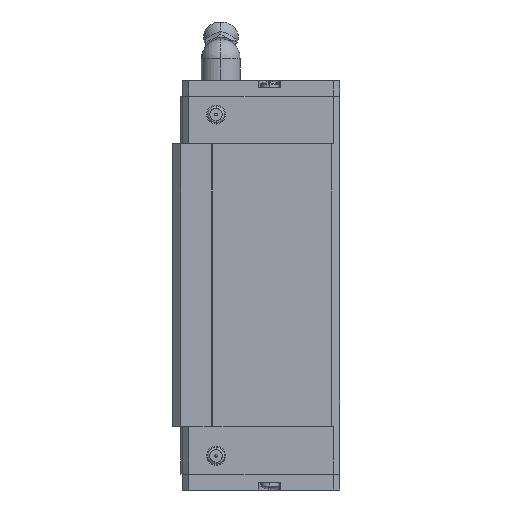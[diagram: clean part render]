
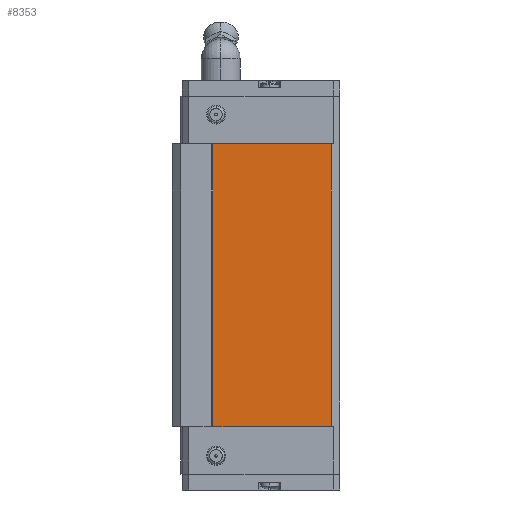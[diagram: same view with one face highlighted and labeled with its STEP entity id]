
A CAD part, left-side view. The second image highlights one B-rep face of the part: STEP entity #8353.
In plain terms, the highlighted planar face has unit normal (-1, 0, 0).
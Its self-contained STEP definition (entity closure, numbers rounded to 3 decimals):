
#803 = CARTESIAN_POINT ( 'NONE',  ( -23.629, 1.72, 29. ) ) ;
#815 = DIRECTION ( 'NONE',  ( 0., 0., -1. ) ) ;
#819 = CARTESIAN_POINT ( 'NONE',  ( -23.629, 26.029, 29. ) ) ;
#820 = DIRECTION ( 'NONE',  ( 0., 0., 1. ) ) ;
#944 = CARTESIAN_POINT ( 'NONE',  ( -23.629, -9.755, 29. ) ) ;
#948 = CARTESIAN_POINT ( 'NONE',  ( -23.629, -9.755, -29. ) ) ;
#954 = DIRECTION ( 'NONE',  ( 0., 1., 0. ) ) ;
#956 = DIRECTION ( 'NONE',  ( 0., 1., 0. ) ) ;
#4681 = VECTOR ( 'NONE', #956, 1000. ) ;
#4683 = VECTOR ( 'NONE', #954, 1000. ) ;
#4686 = LINE ( 'NONE', #948, #4681 ) ;
#4690 = LINE ( 'NONE', #944, #4683 ) ;
#5383 = AXIS2_PLACEMENT_3D ( 'NONE', #10807, #10816, #10817 ) ;
#5568 = ORIENTED_EDGE ( 'NONE', *, *, #9724, .F. ) ;
#5569 = ORIENTED_EDGE ( 'NONE', *, *, #9659, .F. ) ;
#5570 = ORIENTED_EDGE ( 'NONE', *, *, #9723, .T. ) ;
#5572 = ORIENTED_EDGE ( 'NONE', *, *, #9656, .F. ) ;
#8353 = ADVANCED_FACE ( 'NONE', ( #10470 ), #10814, .F. ) ;
#9656 = EDGE_CURVE ( 'NONE', #12284, #12255, #9892, .T. ) ;
#9659 = EDGE_CURVE ( 'NONE', #12144, #12145, #9880, .T. ) ;
#9723 = EDGE_CURVE ( 'NONE', #12284, #12145, #4690, .T. ) ;
#9724 = EDGE_CURVE ( 'NONE', #12255, #12144, #4686, .T. ) ;
#9877 = VECTOR ( 'NONE', #820, 1000. ) ;
#9880 = LINE ( 'NONE', #819, #9877 ) ;
#9883 = VECTOR ( 'NONE', #815, 1000. ) ;
#9892 = LINE ( 'NONE', #803, #9883 ) ;
#10470 = FACE_OUTER_BOUND ( 'NONE', #10711, .T. ) ;
#10711 = EDGE_LOOP ( 'NONE', ( #5572, #5570, #5569, #5568 ) ) ;
#10807 = CARTESIAN_POINT ( 'NONE',  ( -23.629, 26.029, 29. ) ) ;
#10814 = PLANE ( 'NONE',  #5383 ) ;
#10816 = DIRECTION ( 'NONE',  ( 1., 0., 0. ) ) ;
#10817 = DIRECTION ( 'NONE',  ( 0., 1., 0. ) ) ;
#11555 = CARTESIAN_POINT ( 'NONE',  ( -23.629, 26.029, -29. ) ) ;
#11556 = CARTESIAN_POINT ( 'NONE',  ( -23.629, 26.029, 29. ) ) ;
#11666 = CARTESIAN_POINT ( 'NONE',  ( -23.629, 1.72, -29. ) ) ;
#11695 = CARTESIAN_POINT ( 'NONE',  ( -23.629, 1.72, 29. ) ) ;
#12144 = VERTEX_POINT ( 'NONE', #11555 ) ;
#12145 = VERTEX_POINT ( 'NONE', #11556 ) ;
#12255 = VERTEX_POINT ( 'NONE', #11666 ) ;
#12284 = VERTEX_POINT ( 'NONE', #11695 ) ;
